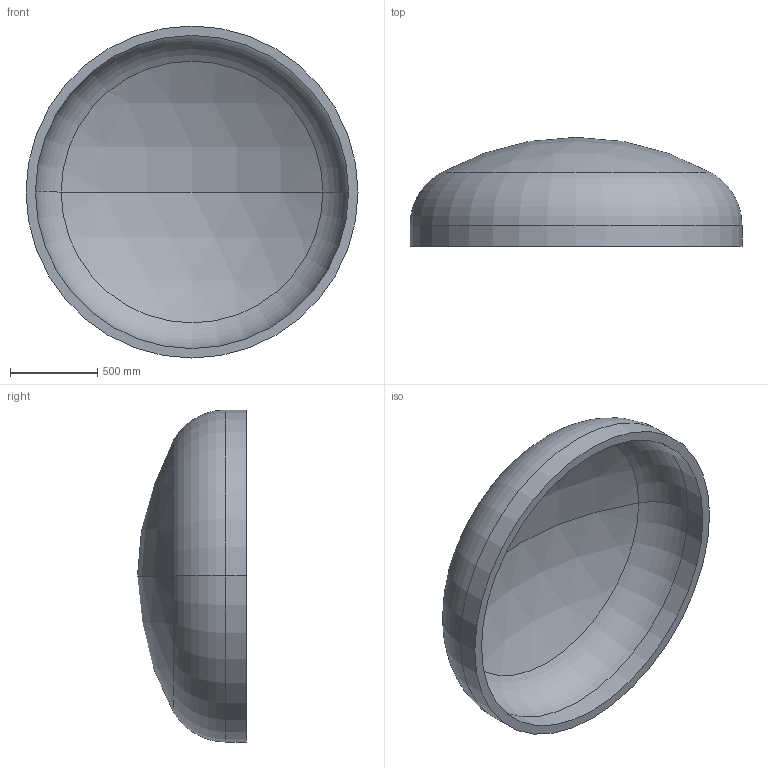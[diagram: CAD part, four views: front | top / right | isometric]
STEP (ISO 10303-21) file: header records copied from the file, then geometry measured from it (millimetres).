
FILE_DESCRIPTION (( 'STEP AP203' ), '1' );
FILE_NAME ('DIN 28013 Korbbogenform_-_Boden DIN 28013 - 1900 x 120 - I - s=54.step', '2016-07-01T13:13:54', ( '' ), ( '' ), 'SwSTEP 2.0', 'SolidWorks 2013', '' );
FILE_SCHEMA (( 'CONFIG_CONTROL_DESIGN' ));
Length unit declared in the file: millimetre
Products named in the file (1): DIN 28013 Korbbogenform_-_Boden DIN 28013 - 1900 x 120 - I - s=54
Bounding box: 1900 x 623.64 x 1900 mm (x, y, z)
Volume: 241526463.8 mm3; surface area: 9264695.6 mm2
Topology: 1 solids, 1 shells, 13 faces, 24 edges, 14 vertices
Faces by surface type: torus 4, cylinder 4, sphere 4, plane 1
Entity records: 407 total; most frequent: DIRECTION 72, CARTESIAN_POINT 52, ORIENTED_EDGE 48, AXIS2_PLACEMENT_3D 34, EDGE_CURVE 24, CIRCLE 20, EDGE_LOOP 14, VERTEX_POINT 14
